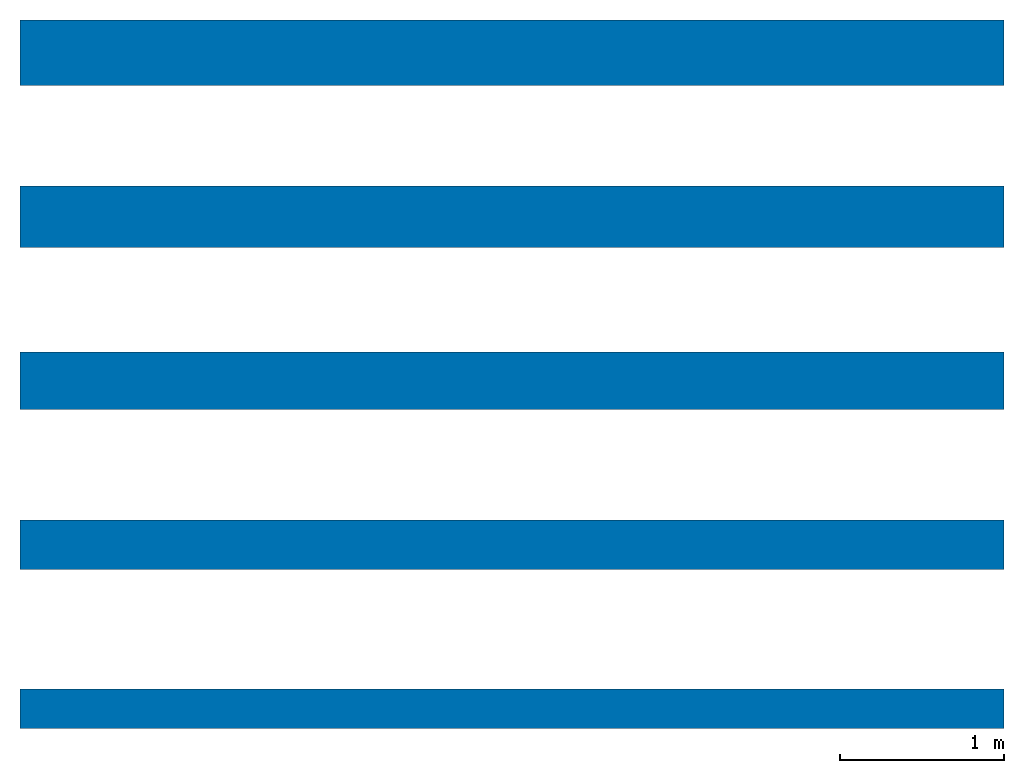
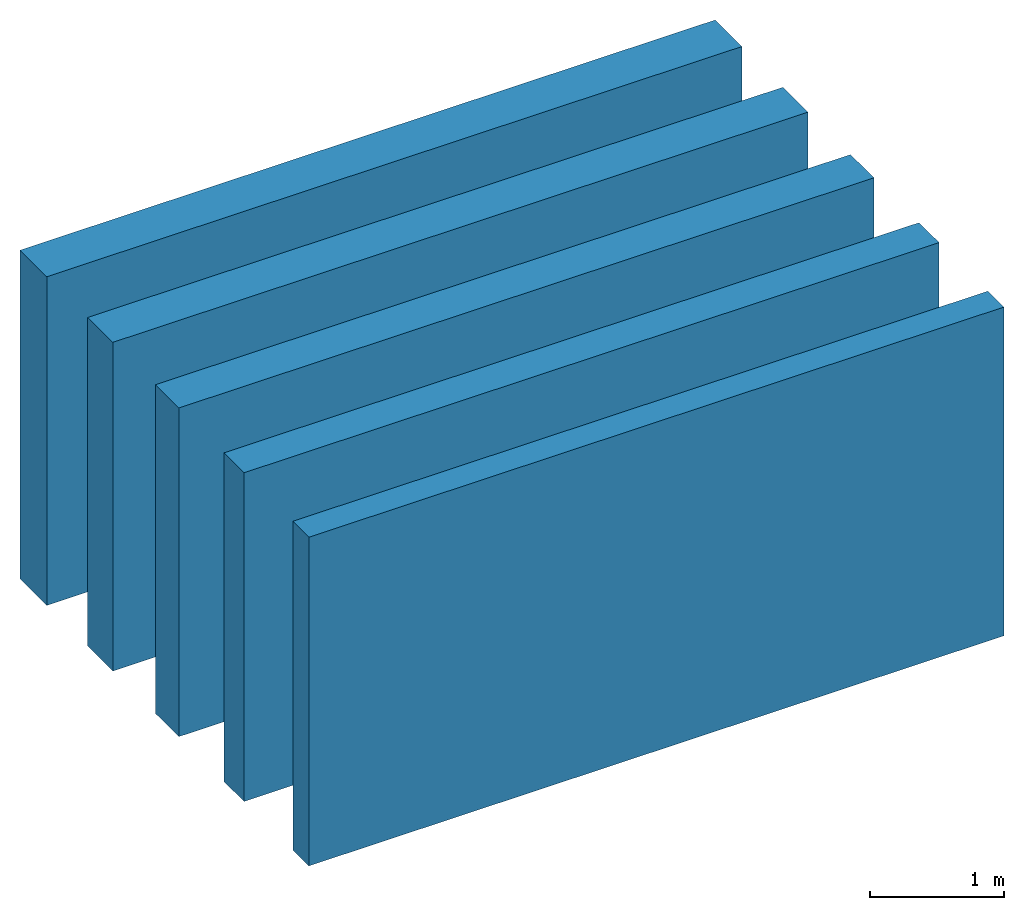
# One storey: 5 walls.
"""IFC2X3 building model written with IfcOpenShell, lengths in millimetres."""

from ifc_helpers import new_model, entity, si_unit, converted_unit, derived_unit, direction, frame, frame_2d, origin, place, context, subcontext, project, spatial, rectangle, extrude, material, layer, layer_set, layer_usage, type_object, element, save


model = new_model("IFC2X3")

# Units and contexts
model_context = context("Model", 3, precision=0.01, world=origin(), true_north=direction((6.12303176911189e-17, 1.0)))
context_of_model = context(None, 3, precision=0.01, world=origin(), true_north=direction((6.12303176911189e-17, 1.0)))
body_context = subcontext(model_context, "Body", "Model", "MODEL_VIEW")
ifc_project = project(units=[si_unit("LENGTHUNIT", "METRE", prefix="MILLI"), si_unit("AREAUNIT", "SQUARE_METRE"), si_unit("VOLUMEUNIT", "CUBIC_METRE"), converted_unit("PLANEANGLEUNIT", "DEGREE", entity("IfcRatioMeasure", 0.0174532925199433), si_unit("PLANEANGLEUNIT", "RADIAN"), dimensions=[0, 0, 0, 0, 0, 0, 0]), si_unit("MASSUNIT", "GRAM", prefix="KILO"), si_unit("TIMEUNIT", "SECOND"), si_unit("FREQUENCYUNIT", "HERTZ"), si_unit("THERMODYNAMICTEMPERATUREUNIT", "DEGREE_CELSIUS"), derived_unit("THERMALTRANSMITTANCEUNIT", [(si_unit("MASSUNIT", "GRAM", prefix="KILO"), 1), (si_unit("THERMODYNAMICTEMPERATUREUNIT", "KELVIN"), -1), (si_unit("TIMEUNIT", "SECOND"), -3)]), derived_unit("VOLUMETRICFLOWRATEUNIT", [(si_unit("LENGTHUNIT", "METRE"), 3), (si_unit("TIMEUNIT", "SECOND"), -1)]), si_unit("ELECTRICCURRENTUNIT", "AMPERE"), si_unit("ELECTRICVOLTAGEUNIT", "VOLT"), si_unit("POWERUNIT", "WATT"), si_unit("FORCEUNIT", "NEWTON", prefix="KILO"), si_unit("ILLUMINANCEUNIT", "LUX"), si_unit("LUMINOUSFLUXUNIT", "LUMEN"), si_unit("LUMINOUSINTENSITYUNIT", "CANDELA"), si_unit("PRESSUREUNIT", "PASCAL")], contexts=[model_context, context_of_model])

# Site, building, storey
site_placement = place(None, origin())
site = spatial("IfcSite", under=ifc_project, at=site_placement, Name="Default", CompositionType="ELEMENT")
building_placement = place(site_placement, origin())
building = spatial("IfcBuilding", under=site, at=building_placement, CompositionType="ELEMENT")
storey_placement = place(building_placement, origin())
storey = spatial("IfcBuildingStorey", under=building, at=storey_placement, Name="Livello 1", CompositionType="ELEMENT", Elevation=0.0)

# Walls
ifc_material = material(Name="GASBETON Sysmic")
ifc_layer_1 = layer(ifc_material, 400.0)
ifc_layer_set_1 = layer_set([ifc_layer_1], Name="Muro di base:GASBETON Sysmic sp. 400 mm")
ifc_layer_usage_1 = layer_usage(ifc_layer_set_1, "AXIS2", "NEGATIVE", 200.0)
wall_type_1 = type_object("IfcWallType", Name="Muro di base:GASBETON Sysmic sp. 400 mm", PredefinedType="STANDARD", material=ifc_layer_set_1)
wall_1_placement = place(storey_placement, frame((-3077.34676084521, 7812.51701641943, 0.0)))
element("IfcWallStandardCase", 1, at=wall_1_placement, inside=storey, type_object=wall_type_1, material=ifc_layer_usage_1, Name="Muro di base:GASBETON Sysmic sp. 400 mm", ObjectType="Muro di base:GASBETON Sysmic sp. 400 mm", context=body_context, shape_type="SweptSolid", body=[
    extrude(rectangle(XDim=6000.0, YDim=400.0, at=frame_2d((3000.0, -5.6843418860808e-14), x_axis=(-1.0, 0.0))), origin(), (0.0, 0.0, 1.0), 3000.0),
])
ifc_layer_2 = layer(ifc_material, 375.0)
ifc_layer_set_2 = layer_set([ifc_layer_2], Name="Muro di base:GASBETON Sysmic sp. 375 mm")
ifc_layer_usage_2 = layer_usage(ifc_layer_set_2, "AXIS2", "NEGATIVE", 187.5)
wall_type_2 = type_object("IfcWallType", Name="Muro di base:GASBETON Sysmic sp. 375 mm", PredefinedType="STANDARD", material=ifc_layer_set_2)
wall_2_placement = place(storey_placement, frame((-3077.34676084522, 6812.51701641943, 0.0)))
element("IfcWallStandardCase", 2, at=wall_2_placement, inside=storey, type_object=wall_type_2, material=ifc_layer_usage_2, Name="Muro di base:GASBETON Sysmic sp. 375 mm", ObjectType="Muro di base:GASBETON Sysmic sp. 375 mm", context=body_context, shape_type="SweptSolid", body=[
    extrude(rectangle(XDim=6000.0, YDim=374.999999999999, at=frame_2d((3000.0, 0.0), x_axis=(-1.0, 0.0))), origin(), (0.0, 0.0, 1.0), 3000.0),
])
ifc_layer_3 = layer(ifc_material, 350.0)
ifc_layer_set_3 = layer_set([ifc_layer_3], Name="Muro di base:GASBETON Sysmic sp. 350 mm")
ifc_layer_usage_3 = layer_usage(ifc_layer_set_3, "AXIS2", "NEGATIVE", 175.0)
wall_type_3 = type_object("IfcWallType", Name="Muro di base:GASBETON Sysmic sp. 350 mm", PredefinedType="STANDARD", material=ifc_layer_set_3)
wall_3_placement = place(storey_placement, frame((-3077.34676084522, 5812.51701641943, 0.0)))
element("IfcWallStandardCase", 3, at=wall_3_placement, inside=storey, type_object=wall_type_3, material=ifc_layer_usage_3, Name="Muro di base:GASBETON Sysmic sp. 350 mm", ObjectType="Muro di base:GASBETON Sysmic sp. 350 mm", context=body_context, shape_type="SweptSolid", body=[
    extrude(rectangle(XDim=6000.0, YDim=350.000000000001, at=frame_2d((3000.0, 0.0), x_axis=(-1.0, 0.0))), origin(), (0.0, 0.0, 1.0), 3000.0),
])
ifc_layer_4 = layer(ifc_material, 300.0)
ifc_layer_set_4 = layer_set([ifc_layer_4], Name="Muro di base:GASBETON Sysmic sp. 300 mm")
ifc_layer_usage_4 = layer_usage(ifc_layer_set_4, "AXIS2", "NEGATIVE", 150.0)
wall_type_4 = type_object("IfcWallType", Name="Muro di base:GASBETON Sysmic sp. 300 mm", PredefinedType="STANDARD", material=ifc_layer_set_4)
wall_4_placement = place(storey_placement, frame((-3077.34676084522, 4812.51701641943, 0.0)))
element("IfcWallStandardCase", 4, at=wall_4_placement, inside=storey, type_object=wall_type_4, material=ifc_layer_usage_4, Name="Muro di base:GASBETON Sysmic sp. 300 mm", ObjectType="Muro di base:GASBETON Sysmic sp. 300 mm", context=body_context, shape_type="SweptSolid", body=[
    extrude(rectangle(XDim=6000.0, YDim=300.000000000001, at=frame_2d((3000.0, 2.70006239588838e-13), x_axis=(-1.0, 0.0))), origin(), (0.0, 0.0, 1.0), 3000.0),
])
ifc_layer_5 = layer(ifc_material, 240.0)
ifc_layer_set_5 = layer_set([ifc_layer_5], Name="Muro di base:GASBETON Sysmic sp. 240 mm")
ifc_layer_usage_5 = layer_usage(ifc_layer_set_5, "AXIS2", "NEGATIVE", 120.0)
wall_type_5 = type_object("IfcWallType", Name="Muro di base:GASBETON Sysmic sp. 240 mm", PredefinedType="STANDARD", material=ifc_layer_set_5)
wall_5_placement = place(storey_placement, frame((-3077.34676084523, 3812.51701641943, 0.0)))
element("IfcWallStandardCase", 5, at=wall_5_placement, inside=storey, type_object=wall_type_5, material=ifc_layer_usage_5, Name="Muro di base:GASBETON Sysmic sp. 240 mm", ObjectType="Muro di base:GASBETON Sysmic sp. 240 mm", context=body_context, shape_type="SweptSolid", body=[
    extrude(rectangle(XDim=6000.0, YDim=240.0, at=frame_2d((3000.0, 0.0), x_axis=(-1.0, 0.0))), origin(), (0.0, 0.0, 1.0), 3000.0),
])

save(model, "model.ifc")
